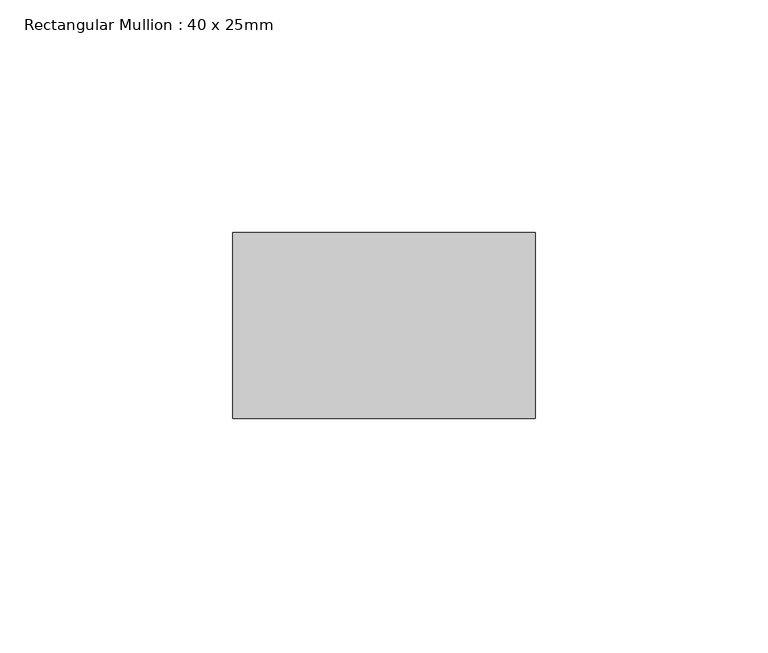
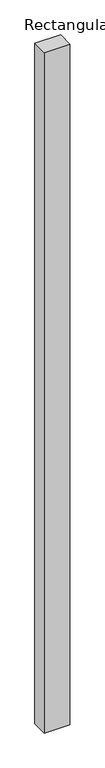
"""IFC4 building model written with IfcOpenShell, lengths in millimetres: member geometry, Rectangular Mullion : 40 x 25mm."""

from ifc_helpers import new_model, si_unit, frame, origin, place, context, project, spatial, polyline, outline, extrude, source, transform, mapped, element, save


def rectangular_mullion_40_x_25mm_bb6998aa(model_context):
    return source(origin(), model_context, "Body", "SweptSolid", [
        extrude(outline(polyline([(0.0, -20.0), (0.0, -60.0), (-65.0, -60.0), (-65.0, -20.0), (0.0, -20.0)])), frame((0.0, 0.0, -1813.9870597), z_axis=(0.0, 0.0, 1.0), x_axis=(1.0, 0.0, 0.0)), (0.0, 0.0, 1.0), 1813.9870597),
    ])


if __name__ == "__main__":
    model = new_model("IFC4")
    model_context = context("Model", 3, world=origin())
    ifc_project = project(units=[si_unit("LENGTHUNIT", "METRE", prefix="MILLI")], contexts=[model_context])
    site = spatial("IfcSite", under=ifc_project)
    building = spatial("IfcBuilding", under=site)
    placement = place(None, origin())
    rectangular_mullion_40_x_25mm_shape = rectangular_mullion_40_x_25mm_bb6998aa(model_context)
    element("IfcMember", 1, ObjectType="Rectangular Mullion : 40 x 25mm", at=placement, inside=building, context=model_context, shape_type="MappedRepresentation", body=[
        mapped(rectangular_mullion_40_x_25mm_shape, transform((0.0, 0.0, 0.0), x_axis=(1.0, 0.0, 0.0), y_axis=(0.0, 1.0, 0.0), z_axis=(0.0, 0.0, 1.0))),
    ])
    save(model, "model.ifc")
